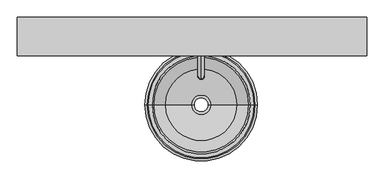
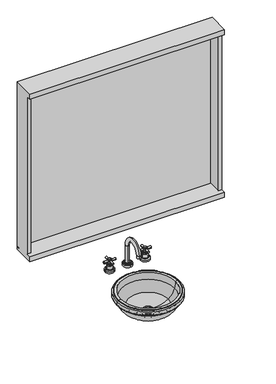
"""IFC4 building model written with IfcOpenShell, lengths in millimetres: furniture geometry, Mueble para Baño 6 : Único."""

from ifc_helpers import new_model, si_unit, point, frame, frame_2d, origin, place, context, project, spatial, polyline, circle_curve, ellipse_curve, trimmed, segment, composite_curve, outline, extrude, faceted_brep, source, transform, mapped, element, save
from ifc_brep_helpers import plane_surface, cylinder_surface, revolved_surface, advanced_brep


def furniture_227ea14e(model_context):
    return source(origin(), model_context, "Body", "SolidModel", [
        extrude(outline(composite_curve([segment(trimmed(circle_curve(frame_2d((0.0, -5.4999999)), 5.5), [point((0.0, -11.0))], [point((0.0, 0.0))], False, "CARTESIAN"), True, "CONTINUOUS"), segment(trimmed(circle_curve(frame_2d((0.0, -5.4999999)), 5.5), [point((0.0, 0.0))], [point((0.0, -11.0))], False, "CARTESIAN"), True, "CONTINUOUS")], self_intersect=False)), frame((-38.3163135, -78.0672767, 1059.2357292), z_axis=(-0.9999993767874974, 0.0011164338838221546, 0.0), x_axis=(0.0, 0.0, -1.0)), (0.0, 0.0, 1.0), 65.6152585),
        extrude(outline(composite_curve([segment(trimmed(circle_curve(frame_2d((1059.2357292, -71.117782)), 5.5), [point((1059.2357292, -65.617782))], [point((1059.2357292, -76.617782))], False, "CARTESIAN"), True, "CONTINUOUS"), segment(trimmed(circle_curve(frame_2d((1059.2357292, -71.117782)), 5.5), [point((1059.2357292, -76.617782))], [point((1059.2357292, -65.617782))], False, "CARTESIAN"), True, "CONTINUOUS")], self_intersect=False)), frame((0.0, -105.3382819, 0.0), z_axis=(0.0, 1.0, 0.0), x_axis=(0.0, 0.0, 1.0)), (0.0, 0.0, 1.0), 65.6152585),
        advanced_brep(
        [(-93.117782, -72.5, 1013.5), (-49.117782, -72.5, 1013.5), (-45.117782, -72.5, 1009.5), (-97.117782, -72.5, 1009.5), (-89.117782, -72.5, 1013.5), (-53.117782, -72.5, 1013.5), (-71.117782, -72.5, 1068.9), (-62.7412258, -72.5, 1068.4308463), (-79.4943381, -72.5, 1068.4308463), (-62.7412258, -72.5, 1067.3782178), (-79.4943381, -72.5, 1067.3782178), (-59.8059449, -72.5, 1067.3782178), (-82.4296191, -72.5, 1067.3782178), (-59.8059449, -72.5, 1051.2186869), (-82.4296191, -72.5, 1051.2186869), (-65.117782, -72.5, 1051.2186869), (-77.117782, -72.5, 1051.2186869), (-65.117782, -72.5, 1043.25), (-77.117782, -72.5, 1043.25), (-60.617782, -72.5, 1042.75), (-81.617782, -72.5, 1042.75), (-60.617782, -72.5, 1040.25), (-81.617782, -72.5, 1040.25), (-59.617782, -72.5, 1040.25), (-82.617782, -72.5, 1040.25), (-56.117782, -72.5, 1036.75), (-86.117782, -72.5, 1036.75), (-56.117782, -72.5, 1016.5), (-86.117782, -72.5, 1016.5), (-45.117782, -72.5, 1000.0), (-97.117782, -72.5, 1000.0), (-71.117782, -72.5, 1000.0)],
        [
            (0, 1, circle_curve(frame((-71.117782, -72.5, 1013.5), z_axis=(0.0, 0.0, -1.0), x_axis=(1.0, 0.0, 0.0)), 22.0)),
            (1, 2, circle_curve(frame((-49.117782, -72.5, 1009.5), z_axis=(0.0, 1.0, 0.0), x_axis=(1.0, 0.0, 0.0)), 4.0)),
            (2, 3, circle_curve(frame((-71.117782, -72.5, 1009.5), z_axis=(0.0, 0.0, 1.0), x_axis=(1.0, 0.0, 0.0)), 26.0)),
            (3, 0, circle_curve(frame((-93.117782, -72.5, 1009.5), z_axis=(0.0, 1.0, 0.0), x_axis=(-1.0, 0.0, 0.0)), 4.0)),
            (1, 0, circle_curve(frame((-71.117782, -72.5, 1013.5), z_axis=(0.0, 0.0, -1.0), x_axis=(1.0, 0.0, 0.0)), 22.0)),
            (3, 2, circle_curve(frame((-71.117782, -72.5, 1009.5), z_axis=(0.0, 0.0, 1.0), x_axis=(1.0, 0.0, 0.0)), 26.0)),
            (4, 5, circle_curve(frame((-71.117782, -72.5, 1013.5), z_axis=(0.0, 0.0, -1.0), x_axis=(1.0, 0.0, 0.0)), 18.0)),
            (5, 1),
            (0, 4),
            (5, 4, circle_curve(frame((-71.117782, -72.5, 1013.5), z_axis=(0.0, 0.0, -1.0), x_axis=(1.0, 0.0, 0.0)), 18.0)),
            (6, 7, circle_curve(frame((-74.1525106, -72.5, 939.7014544), z_axis=(0.0, 1.0, 0.0), x_axis=(-1.0, 0.0, 0.0)), 129.2341819)),
            (7, 8, circle_curve(frame((-71.117782, -72.5, 1068.4308463), z_axis=(0.0, 0.0, 1.0), x_axis=(1.0, 0.0, 0.0)), 8.3765562)),
            (8, 6, circle_curve(frame((-68.0830533, -72.5, 939.7014544), z_axis=(0.0, 1.0, 0.0), x_axis=(1.0, 0.0, 0.0)), 129.2341819)),
            (8, 7, circle_curve(frame((-71.117782, -72.5, 1068.4308463), z_axis=(0.0, 0.0, 1.0), x_axis=(1.0, 0.0, 0.0)), 8.3765562)),
            (7, 9),
            (9, 10, circle_curve(frame((-71.117782, -72.5, 1067.3782178), z_axis=(0.0, 0.0, 1.0), x_axis=(1.0, 0.0, 0.0)), 8.3765562)),
            (10, 8),
            (10, 9, circle_curve(frame((-71.117782, -72.5, 1067.3782178), z_axis=(0.0, 0.0, 1.0), x_axis=(1.0, 0.0, 0.0)), 8.3765562)),
            (9, 11),
            (11, 12, circle_curve(frame((-71.117782, -72.5, 1067.3782178), z_axis=(0.0, 0.0, 1.0), x_axis=(1.0, 0.0, 0.0)), 11.3118371)),
            (12, 10),
            (12, 11, circle_curve(frame((-71.117782, -72.5, 1067.3782178), z_axis=(0.0, 0.0, 1.0), x_axis=(1.0, 0.0, 0.0)), 11.3118371)),
            (11, 13),
            (13, 14, circle_curve(frame((-71.117782, -72.5, 1051.2186869), z_axis=(0.0, 0.0, 1.0), x_axis=(1.0, 0.0, 0.0)), 11.3118371)),
            (14, 12),
            (14, 13, circle_curve(frame((-71.117782, -72.5, 1051.2186869), z_axis=(0.0, 0.0, 1.0), x_axis=(1.0, 0.0, 0.0)), 11.3118371)),
            (13, 15),
            (15, 16, circle_curve(frame((-71.117782, -72.5, 1051.2186869), z_axis=(0.0, 0.0, 1.0), x_axis=(1.0, 0.0, 0.0)), 6.0)),
            (16, 14),
            (16, 15, circle_curve(frame((-71.117782, -72.5, 1051.2186869), z_axis=(0.0, 0.0, 1.0), x_axis=(1.0, 0.0, 0.0)), 6.0)),
            (15, 17),
            (17, 18, circle_curve(frame((-71.117782, -72.5, 1043.25), z_axis=(0.0, 0.0, 1.0), x_axis=(1.0, 0.0, 0.0)), 6.0)),
            (18, 16),
            (18, 17, circle_curve(frame((-71.117782, -72.5, 1043.25), z_axis=(0.0, 0.0, 1.0), x_axis=(1.0, 0.0, 0.0)), 6.0)),
            (17, 19),
            (19, 20, circle_curve(frame((-71.117782, -72.5, 1042.75), z_axis=(0.0, 0.0, 1.0), x_axis=(1.0, 0.0, 0.0)), 10.5)),
            (20, 18),
            (20, 19, circle_curve(frame((-71.117782, -72.5, 1042.75), z_axis=(0.0, 0.0, 1.0), x_axis=(1.0, 0.0, 0.0)), 10.5)),
            (19, 21),
            (21, 22, circle_curve(frame((-71.117782, -72.5, 1040.25), z_axis=(0.0, 0.0, 1.0), x_axis=(1.0, 0.0, 0.0)), 10.5)),
            (22, 20),
            (22, 21, circle_curve(frame((-71.117782, -72.5, 1040.25), z_axis=(0.0, 0.0, 1.0), x_axis=(1.0, 0.0, 0.0)), 10.5)),
            (21, 23),
            (23, 24, circle_curve(frame((-71.117782, -72.5, 1040.25), z_axis=(0.0, 0.0, 1.0), x_axis=(1.0, 0.0, 0.0)), 11.5)),
            (24, 22),
            (24, 23, circle_curve(frame((-71.117782, -72.5, 1040.25), z_axis=(0.0, 0.0, 1.0), x_axis=(1.0, 0.0, 0.0)), 11.5)),
            (23, 25, circle_curve(frame((-59.617782, -72.5, 1036.75), z_axis=(0.0, 1.0, 0.0), x_axis=(-1.0, 0.0, 0.0)), 3.5)),
            (25, 26, circle_curve(frame((-71.117782, -72.5, 1036.75), z_axis=(0.0, 0.0, 1.0), x_axis=(1.0, 0.0, 0.0)), 15.0)),
            (26, 24, circle_curve(frame((-82.617782, -72.5, 1036.75), z_axis=(0.0, 1.0, 0.0), x_axis=(1.0, 0.0, 0.0)), 3.5)),
            (26, 25, circle_curve(frame((-71.117782, -72.5, 1036.75), z_axis=(0.0, 0.0, 1.0), x_axis=(1.0, 0.0, 0.0)), 15.0)),
            (25, 27),
            (27, 28, circle_curve(frame((-71.117782, -72.5, 1016.5), z_axis=(0.0, 0.0, 1.0), x_axis=(1.0, 0.0, 0.0)), 15.0)),
            (28, 26),
            (28, 27, circle_curve(frame((-71.117782, -72.5, 1016.5), z_axis=(0.0, 0.0, 1.0), x_axis=(1.0, 0.0, 0.0)), 15.0)),
            (27, 5, circle_curve(frame((-53.117782, -72.5, 1016.5), z_axis=(0.0, -1.0, 0.0), x_axis=(-1.0, 0.0, 0.0)), 3.0)),
            (4, 28, circle_curve(frame((-89.117782, -72.5, 1016.5), z_axis=(0.0, -1.0, 0.0), x_axis=(1.0, 0.0, 0.0)), 3.0)),
            (2, 29),
            (29, 30, circle_curve(frame((-71.117782, -72.5, 1000.0), z_axis=(0.0, 0.0, 1.0), x_axis=(1.0, 0.0, 0.0)), 26.0)),
            (30, 3),
            (30, 29, circle_curve(frame((-71.117782, -72.5, 1000.0), z_axis=(0.0, 0.0, 1.0), x_axis=(1.0, 0.0, 0.0)), 26.0)),
            (29, 31),
            (31, 30),
        ],
        [
            revolved_surface(trimmed(ellipse_curve(frame((-49.117782, -72.5, 1009.5), z_axis=(0.0, -1.0, 0.0), x_axis=(1.0, 0.0, 0.0)), 4.0, 4.0), [point((-45.117782, -72.5, 1009.5))], [point((-49.117782, -72.5, 1013.5))], True, "CARTESIAN"), (-71.117782, -72.5, 1051.2186869), (0.0, 0.0, 1.0)),
            plane_surface(frame((-71.117782, -72.5, 1013.5), z_axis=(0.0, 0.0, 1.0), x_axis=(1.0, 0.0, 0.0))),
            revolved_surface(trimmed(ellipse_curve(frame((-74.1525106, -72.5, 939.7014544), z_axis=(0.0, -1.0, 0.0), x_axis=(-1.0, 0.0, 0.0)), 129.2341819, 129.2341819), [point((-62.7412258, -72.5, 1068.4308463))], [point((-71.117782, -72.5, 1068.9))], True, "CARTESIAN"), (-71.117782, -72.5, 1051.2186869), (0.0, 0.0, 1.0)),
            cylinder_surface(frame((-71.117782, -72.5, 1051.2186869), z_axis=(0.0, 0.0, 1.0), x_axis=(1.0, 0.0, 0.0)), 8.3765562),
            plane_surface(frame((-71.117782, -72.5, 1067.3782178), z_axis=(0.0, 0.0, 1.0), x_axis=(1.0, 0.0, 0.0))),
            cylinder_surface(frame((-71.117782, -72.5, 1051.2186869), z_axis=(0.0, 0.0, 1.0), x_axis=(1.0, 0.0, 0.0)), 11.3118371),
            plane_surface(frame((-71.117782, -72.5, 1051.2186869), z_axis=(0.0, 0.0, -1.0), x_axis=(1.0, 0.0, 0.0))),
            cylinder_surface(frame((-71.117782, -72.5, 1051.2186869), z_axis=(0.0, 0.0, 1.0), x_axis=(1.0, 0.0, 0.0)), 6.0),
            revolved_surface(polyline([(-60.617782, -72.5, 1042.75), (-65.117782, -72.5, 1043.25)]), (-71.117782, -72.5, 1051.2186869), (0.0, 0.0, 1.0)),
            cylinder_surface(frame((-71.117782, -72.5, 1051.2186869), z_axis=(0.0, 0.0, 1.0), x_axis=(1.0, 0.0, 0.0)), 10.5),
            plane_surface(frame((-71.117782, -72.5, 1040.25), z_axis=(0.0, 0.0, 1.0), x_axis=(1.0, 0.0, 0.0))),
            revolved_surface(trimmed(ellipse_curve(frame((-59.617782, -72.5, 1036.75), z_axis=(0.0, -1.0, 0.0), x_axis=(-1.0, 0.0, 0.0)), 3.5, 3.5), [point((-56.117782, -72.5, 1036.75))], [point((-59.617782, -72.5, 1040.25))], True, "CARTESIAN"), (-71.117782, -72.5, 1051.2186869), (0.0, 0.0, 1.0)),
            cylinder_surface(frame((-71.117782, -72.5, 1051.2186869), z_axis=(0.0, 0.0, 1.0), x_axis=(1.0, 0.0, 0.0)), 15.0),
            revolved_surface(trimmed(ellipse_curve(frame((-53.117782, -72.5, 1016.5), z_axis=(0.0, 1.0, 0.0), x_axis=(-1.0, 0.0, 0.0)), 3.0, 3.0), [point((-53.117782, -72.5, 1013.5))], [point((-56.117782, -72.5, 1016.5))], True, "CARTESIAN"), (-71.117782, -72.5, 1051.2186869), (0.0, 0.0, 1.0)),
            cylinder_surface(frame((-71.117782, -72.5, 1051.2186869), z_axis=(0.0, 0.0, 1.0), x_axis=(1.0, 0.0, 0.0)), 26.0),
            plane_surface(frame((-71.117782, -72.5, 1000.0), z_axis=(0.0, 0.0, -1.0), x_axis=(1.0, 0.0, 0.0))),
        ],
        [
            (0, [[1, 2, 3, 4]]),
            (0, [[5, -4, 6, -2]]),
            (1, [[7, 8, -1, 9]]),
            (1, [[10, -9, -5, -8]]),
            (2, [[11, 12, 13]]),
            (2, [[-13, 14, -11]]),
            (3, [[-12, 15, 16, 17]]),
            (3, [[-14, -17, 18, -15]]),
            (4, [[-16, 19, 20, 21]]),
            (4, [[-18, -21, 22, -19]]),
            (5, [[-20, 23, 24, 25]]),
            (5, [[-22, -25, 26, -23]]),
            (6, [[-24, 27, 28, 29]]),
            (6, [[-26, -29, 30, -27]]),
            (7, [[-28, 31, 32, 33]]),
            (7, [[-30, -33, 34, -31]]),
            (8, [[-32, 35, 36, 37]]),
            (8, [[-34, -37, 38, -35]]),
            (9, [[-36, 39, 40, 41]]),
            (9, [[-38, -41, 42, -39]]),
            (10, [[-40, 43, 44, 45]]),
            (10, [[-42, -45, 46, -43]]),
            (11, [[-44, 47, 48, 49]]),
            (11, [[-46, -49, 50, -47]]),
            (12, [[-48, 51, 52, 53]]),
            (12, [[-50, -53, 54, -51]]),
            (13, [[-52, 55, -7, 56]]),
            (13, [[-54, -56, -10, -55]]),
            (14, [[-3, 57, 58, 59]]),
            (14, [[-6, -59, 60, -57]]),
            (15, [[-58, 61, 62]]),
            (15, [[-60, -62, -61]]),
        ],
    ),
        extrude(outline(composite_curve([segment(trimmed(circle_curve(frame_2d((0.0, -5.4999999)), 5.5), [point((0.0, -11.0))], [point((0.0, 0.0))], False, "CARTESIAN"), True, "CONTINUOUS"), segment(trimmed(circle_curve(frame_2d((0.0, -5.4999999)), 5.5), [point((0.0, 0.0))], [point((0.0, -11.0))], False, "CARTESIAN"), True, "CONTINUOUS")], self_intersect=False)), frame((96.0807496, -78.0672767, 1059.2357292), z_axis=(0.9999993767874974, 0.0011164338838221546, 0.0), x_axis=(0.0, 0.0, 1.0)), (0.0, 0.0, 1.0), 65.6152585),
        extrude(outline(composite_curve([segment(trimmed(circle_curve(frame_2d((1059.2357292, 128.882218)), 5.5), [point((1059.2357292, 123.382218))], [point((1059.2357292, 134.382218))], False, "CARTESIAN"), True, "CONTINUOUS"), segment(trimmed(circle_curve(frame_2d((1059.2357292, 128.882218)), 5.5), [point((1059.2357292, 134.382218))], [point((1059.2357292, 123.382218))], False, "CARTESIAN"), True, "CONTINUOUS")], self_intersect=False)), frame((0.0, -105.3382819, 0.0), z_axis=(0.0, 1.0, 0.0), x_axis=(0.0, 0.0, 1.0)), (0.0, 0.0, 1.0), 65.6152585),
        advanced_brep(
        [(154.882218, -72.5, 1009.5), (102.882218, -72.5, 1009.5), (106.882218, -72.5, 1013.5), (150.882218, -72.5, 1013.5), (110.882218, -72.5, 1013.5), (146.882218, -72.5, 1013.5), (137.2587742, -72.5, 1068.4308463), (120.5056619, -72.5, 1068.4308463), (128.882218, -72.5, 1068.9), (137.2587742, -72.5, 1067.3782178), (120.5056619, -72.5, 1067.3782178), (140.1940551, -72.5, 1067.3782178), (117.5703809, -72.5, 1067.3782178), (140.1940551, -72.5, 1051.2186869), (117.5703809, -72.5, 1051.2186869), (134.882218, -72.5, 1051.2186869), (122.882218, -72.5, 1051.2186869), (134.882218, -72.5, 1043.25), (122.882218, -72.5, 1043.25), (139.382218, -72.5, 1042.75), (118.382218, -72.5, 1042.75), (139.382218, -72.5, 1040.25), (118.382218, -72.5, 1040.25), (140.382218, -72.5, 1040.25), (117.382218, -72.5, 1040.25), (143.882218, -72.5, 1036.75), (113.882218, -72.5, 1036.75), (143.882218, -72.5, 1016.5), (113.882218, -72.5, 1016.5), (154.882218, -72.5, 1000.0), (102.882218, -72.5, 1000.0), (128.882218, -72.5, 1000.0)],
        [
            (0, 1, circle_curve(frame((128.882218, -72.5, 1009.5), z_axis=(0.0, 0.0, 1.0), x_axis=(-1.0, 0.0, 0.0)), 26.0)),
            (1, 2, circle_curve(frame((106.882218, -72.5, 1009.5), z_axis=(0.0, 1.0, 0.0), x_axis=(-1.0, 0.0, 0.0)), 4.0)),
            (2, 3, circle_curve(frame((128.882218, -72.5, 1013.5), z_axis=(0.0, 0.0, -1.0), x_axis=(-1.0, 0.0, 0.0)), 22.0)),
            (3, 0, circle_curve(frame((150.882218, -72.5, 1009.5), z_axis=(0.0, 1.0, 0.0), x_axis=(1.0, 0.0, 0.0)), 4.0)),
            (1, 0, circle_curve(frame((128.882218, -72.5, 1009.5), z_axis=(0.0, 0.0, 1.0), x_axis=(-1.0, 0.0, 0.0)), 26.0)),
            (3, 2, circle_curve(frame((128.882218, -72.5, 1013.5), z_axis=(0.0, 0.0, -1.0), x_axis=(-1.0, 0.0, 0.0)), 22.0)),
            (2, 4),
            (4, 5, circle_curve(frame((128.882218, -72.5, 1013.5), z_axis=(0.0, 0.0, -1.0), x_axis=(-1.0, 0.0, 0.0)), 18.0)),
            (5, 3),
            (5, 4, circle_curve(frame((128.882218, -72.5, 1013.5), z_axis=(0.0, 0.0, -1.0), x_axis=(-1.0, 0.0, 0.0)), 18.0)),
            (6, 7, circle_curve(frame((128.882218, -72.5, 1068.4308463), z_axis=(0.0, 0.0, 1.0), x_axis=(-1.0, 0.0, 0.0)), 8.3765562)),
            (7, 8, circle_curve(frame((131.9169467, -72.5, 939.7014544), z_axis=(0.0, 1.0, 0.0), x_axis=(1.0, 0.0, 0.0)), 129.2341819)),
            (8, 6, circle_curve(frame((125.8474894, -72.5, 939.7014544), z_axis=(0.0, 1.0, 0.0), x_axis=(-1.0, 0.0, 0.0)), 129.2341819)),
            (7, 6, circle_curve(frame((128.882218, -72.5, 1068.4308463), z_axis=(0.0, 0.0, 1.0), x_axis=(-1.0, 0.0, 0.0)), 8.3765562)),
            (9, 10, circle_curve(frame((128.882218, -72.5, 1067.3782178), z_axis=(0.0, 0.0, 1.0), x_axis=(-1.0, 0.0, 0.0)), 8.3765562)),
            (10, 7),
            (6, 9),
            (10, 9, circle_curve(frame((128.882218, -72.5, 1067.3782178), z_axis=(0.0, 0.0, 1.0), x_axis=(-1.0, 0.0, 0.0)), 8.3765562)),
            (11, 12, circle_curve(frame((128.882218, -72.5, 1067.3782178), z_axis=(0.0, 0.0, 1.0), x_axis=(-1.0, 0.0, 0.0)), 11.3118371)),
            (12, 10),
            (9, 11),
            (12, 11, circle_curve(frame((128.882218, -72.5, 1067.3782178), z_axis=(0.0, 0.0, 1.0), x_axis=(-1.0, 0.0, 0.0)), 11.3118371)),
            (13, 14, circle_curve(frame((128.882218, -72.5, 1051.2186869), z_axis=(0.0, 0.0, 1.0), x_axis=(-1.0, 0.0, 0.0)), 11.3118371)),
            (14, 12),
            (11, 13),
            (14, 13, circle_curve(frame((128.882218, -72.5, 1051.2186869), z_axis=(0.0, 0.0, 1.0), x_axis=(-1.0, 0.0, 0.0)), 11.3118371)),
            (15, 16, circle_curve(frame((128.882218, -72.5, 1051.2186869), z_axis=(0.0, 0.0, 1.0), x_axis=(-1.0, 0.0, 0.0)), 6.0)),
            (16, 14),
            (13, 15),
            (16, 15, circle_curve(frame((128.882218, -72.5, 1051.2186869), z_axis=(0.0, 0.0, 1.0), x_axis=(-1.0, 0.0, 0.0)), 6.0)),
            (17, 18, circle_curve(frame((128.882218, -72.5, 1043.25), z_axis=(0.0, 0.0, 1.0), x_axis=(-1.0, 0.0, 0.0)), 6.0)),
            (18, 16),
            (15, 17),
            (18, 17, circle_curve(frame((128.882218, -72.5, 1043.25), z_axis=(0.0, 0.0, 1.0), x_axis=(-1.0, 0.0, 0.0)), 6.0)),
            (19, 20, circle_curve(frame((128.882218, -72.5, 1042.75), z_axis=(0.0, 0.0, 1.0), x_axis=(-1.0, 0.0, 0.0)), 10.5)),
            (20, 18),
            (17, 19),
            (20, 19, circle_curve(frame((128.882218, -72.5, 1042.75), z_axis=(0.0, 0.0, 1.0), x_axis=(-1.0, 0.0, 0.0)), 10.5)),
            (21, 22, circle_curve(frame((128.882218, -72.5, 1040.25), z_axis=(0.0, 0.0, 1.0), x_axis=(-1.0, 0.0, 0.0)), 10.5)),
            (22, 20),
            (19, 21),
            (22, 21, circle_curve(frame((128.882218, -72.5, 1040.25), z_axis=(0.0, 0.0, 1.0), x_axis=(-1.0, 0.0, 0.0)), 10.5)),
            (23, 24, circle_curve(frame((128.882218, -72.5, 1040.25), z_axis=(0.0, 0.0, 1.0), x_axis=(-1.0, 0.0, 0.0)), 11.5)),
            (24, 22),
            (21, 23),
            (24, 23, circle_curve(frame((128.882218, -72.5, 1040.25), z_axis=(0.0, 0.0, 1.0), x_axis=(-1.0, 0.0, 0.0)), 11.5)),
            (25, 26, circle_curve(frame((128.882218, -72.5, 1036.75), z_axis=(0.0, 0.0, 1.0), x_axis=(-1.0, 0.0, 0.0)), 15.0)),
            (26, 24, circle_curve(frame((117.382218, -72.5, 1036.75), z_axis=(0.0, 1.0, 0.0), x_axis=(1.0, 0.0, 0.0)), 3.5)),
            (23, 25, circle_curve(frame((140.382218, -72.5, 1036.75), z_axis=(0.0, 1.0, 0.0), x_axis=(-1.0, 0.0, 0.0)), 3.5)),
            (26, 25, circle_curve(frame((128.882218, -72.5, 1036.75), z_axis=(0.0, 0.0, 1.0), x_axis=(-1.0, 0.0, 0.0)), 15.0)),
            (27, 28, circle_curve(frame((128.882218, -72.5, 1016.5), z_axis=(0.0, 0.0, 1.0), x_axis=(-1.0, 0.0, 0.0)), 15.0)),
            (28, 26),
            (25, 27),
            (28, 27, circle_curve(frame((128.882218, -72.5, 1016.5), z_axis=(0.0, 0.0, 1.0), x_axis=(-1.0, 0.0, 0.0)), 15.0)),
            (4, 28, circle_curve(frame((110.882218, -72.5, 1016.5), z_axis=(0.0, -1.0, 0.0), x_axis=(1.0, 0.0, 0.0)), 3.0)),
            (27, 5, circle_curve(frame((146.882218, -72.5, 1016.5), z_axis=(0.0, -1.0, 0.0), x_axis=(-1.0, 0.0, 0.0)), 3.0)),
            (29, 30, circle_curve(frame((128.882218, -72.5, 1000.0), z_axis=(0.0, 0.0, 1.0), x_axis=(-1.0, 0.0, 0.0)), 26.0)),
            (30, 1),
            (0, 29),
            (30, 29, circle_curve(frame((128.882218, -72.5, 1000.0), z_axis=(0.0, 0.0, 1.0), x_axis=(-1.0, 0.0, 0.0)), 26.0)),
            (31, 30),
            (29, 31),
        ],
        [
            revolved_surface(trimmed(ellipse_curve(frame((106.882218, -72.5, 1009.5), z_axis=(0.0, -1.0, 0.0), x_axis=(-1.0, 0.0, 0.0)), 4.0, 4.0), [point((106.882218, -72.5, 1013.5))], [point((102.882218, -72.5, 1009.5))], True, "CARTESIAN"), (128.882218, -72.5, 1051.2186869), (0.0, 0.0, -1.0)),
            plane_surface(frame((128.882218, -72.5, 1013.5), z_axis=(0.0, 0.0, 1.0), x_axis=(-1.0, 0.0, 0.0))),
            revolved_surface(trimmed(ellipse_curve(frame((131.9169467, -72.5, 939.7014544), z_axis=(0.0, -1.0, 0.0), x_axis=(1.0, 0.0, 0.0)), 129.2341819, 129.2341819), [point((128.882218, -72.5, 1068.9))], [point((120.5056619, -72.5, 1068.4308463))], True, "CARTESIAN"), (128.882218, -72.5, 1051.2186869), (0.0, 0.0, -1.0)),
            cylinder_surface(frame((128.882218, -72.5, 1051.2186869), z_axis=(0.0, 0.0, -1.0), x_axis=(-1.0, 0.0, 0.0)), 8.3765562),
            plane_surface(frame((128.882218, -72.5, 1067.3782178), z_axis=(0.0, 0.0, 1.0), x_axis=(-1.0, 0.0, 0.0))),
            cylinder_surface(frame((128.882218, -72.5, 1051.2186869), z_axis=(0.0, 0.0, -1.0), x_axis=(-1.0, 0.0, 0.0)), 11.3118371),
            plane_surface(frame((128.882218, -72.5, 1051.2186869), z_axis=(0.0, 0.0, -1.0), x_axis=(-1.0, 0.0, 0.0))),
            cylinder_surface(frame((128.882218, -72.5, 1051.2186869), z_axis=(0.0, 0.0, -1.0), x_axis=(-1.0, 0.0, 0.0)), 6.0),
            revolved_surface(polyline([(122.882218, -72.5, 1043.25), (118.382218, -72.5, 1042.75)]), (128.882218, -72.5, 1051.2186869), (0.0, 0.0, -1.0)),
            cylinder_surface(frame((128.882218, -72.5, 1051.2186869), z_axis=(0.0, 0.0, -1.0), x_axis=(-1.0, 0.0, 0.0)), 10.5),
            plane_surface(frame((128.882218, -72.5, 1040.25), z_axis=(0.0, 0.0, 1.0), x_axis=(-1.0, 0.0, 0.0))),
            revolved_surface(trimmed(ellipse_curve(frame((117.382218, -72.5, 1036.75), z_axis=(0.0, -1.0, 0.0), x_axis=(1.0, 0.0, 0.0)), 3.5, 3.5), [point((117.382218, -72.5, 1040.25))], [point((113.882218, -72.5, 1036.75))], True, "CARTESIAN"), (128.882218, -72.5, 1051.2186869), (0.0, 0.0, -1.0)),
            cylinder_surface(frame((128.882218, -72.5, 1051.2186869), z_axis=(0.0, 0.0, -1.0), x_axis=(-1.0, 0.0, 0.0)), 15.0),
            revolved_surface(trimmed(ellipse_curve(frame((110.882218, -72.5, 1016.5), z_axis=(0.0, 1.0, 0.0), x_axis=(1.0, 0.0, 0.0)), 3.0, 3.0), [point((113.882218, -72.5, 1016.5))], [point((110.882218, -72.5, 1013.5))], True, "CARTESIAN"), (128.882218, -72.5, 1051.2186869), (0.0, 0.0, -1.0)),
            cylinder_surface(frame((128.882218, -72.5, 1051.2186869), z_axis=(0.0, 0.0, -1.0), x_axis=(-1.0, 0.0, 0.0)), 26.0),
            plane_surface(frame((128.882218, -72.5, 1000.0), z_axis=(0.0, 0.0, -1.0), x_axis=(-1.0, 0.0, 0.0))),
        ],
        [
            (0, [[1, 2, 3, 4]]),
            (0, [[5, -4, 6, -2]]),
            (1, [[-3, 7, 8, 9]]),
            (1, [[-6, -9, 10, -7]]),
            (2, [[11, 12, 13]]),
            (2, [[14, -13, -12]]),
            (3, [[15, 16, -11, 17]]),
            (3, [[18, -17, -14, -16]]),
            (4, [[19, 20, -15, 21]]),
            (4, [[22, -21, -18, -20]]),
            (5, [[23, 24, -19, 25]]),
            (5, [[26, -25, -22, -24]]),
            (6, [[27, 28, -23, 29]]),
            (6, [[30, -29, -26, -28]]),
            (7, [[31, 32, -27, 33]]),
            (7, [[34, -33, -30, -32]]),
            (8, [[35, 36, -31, 37]]),
            (8, [[38, -37, -34, -36]]),
            (9, [[39, 40, -35, 41]]),
            (9, [[42, -41, -38, -40]]),
            (10, [[43, 44, -39, 45]]),
            (10, [[46, -45, -42, -44]]),
            (11, [[47, 48, -43, 49]]),
            (11, [[50, -49, -46, -48]]),
            (12, [[51, 52, -47, 53]]),
            (12, [[54, -53, -50, -52]]),
            (13, [[-8, 55, -51, 56]]),
            (13, [[-10, -56, -54, -55]]),
            (14, [[57, 58, -1, 59]]),
            (14, [[60, -59, -5, -58]]),
            (15, [[61, -57, 62]]),
            (15, [[-62, -60, -61]]),
        ],
    ),
        advanced_brep(
        [(28.882218, -61.835431, 1119.7202096), (28.882218, -193.4626961, 1125.0209236), (28.882218, -172.5306982, 1123.3322953), (28.882218, -82.835431, 1119.7202096), (28.882218, -82.835431, 1018.5439889), (28.882218, -61.835431, 1018.5439889), (28.882218, -173.7692873, 1107.9789202), (28.882218, -194.7012852, 1109.6675485)],
        [
            (0, 1, circle_curve(frame((28.882218, -127.7557951, 1119.7202096), z_axis=(1.0, 0.0, 0.0), x_axis=(0.0, -0.9967618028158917, 0.0804108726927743)), 65.9203641)),
            (1, 2, circle_curve(frame((28.882218, -182.9966972, 1124.1766094), z_axis=(0.0, 0.08041087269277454, 0.9967618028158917), x_axis=(0.0, -0.9967618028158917, 0.08041087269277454)), 10.5)),
            (2, 3, circle_curve(frame((28.882218, -127.7557951, 1119.7202096), z_axis=(-1.0, 0.0, 0.0), x_axis=(0.0, -0.9967618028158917, 0.0804108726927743)), 44.9203641)),
            (3, 0, circle_curve(frame((28.882218, -72.335431, 1119.7202096), z_axis=(0.0, 0.0, 1.0), x_axis=(0.0, 1.0, 0.0)), 10.5)),
            (2, 1, circle_curve(frame((28.882218, -182.9966972, 1124.1766094), z_axis=(0.0, 0.08041087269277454, 0.9967618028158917), x_axis=(0.0, -0.9967618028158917, 0.08041087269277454)), 10.5)),
            (0, 3, circle_curve(frame((28.882218, -72.335431, 1119.7202096), z_axis=(0.0, 0.0, 1.0), x_axis=(0.0, 1.0, 0.0)), 10.5)),
            (4, 5, circle_curve(frame((28.882218, -72.335431, 1018.5439889), z_axis=(0.0, 0.0, -1.0), x_axis=(0.0, 1.0, 0.0)), 10.5)),
            (5, 4, circle_curve(frame((28.882218, -72.335431, 1018.5439889), z_axis=(0.0, 0.0, -1.0), x_axis=(0.0, 1.0, 0.0)), 10.5)),
            (3, 4),
            (5, 0),
            (6, 7, circle_curve(frame((28.882218, -184.2352863, 1108.8232344), z_axis=(0.0, -0.08041087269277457, -0.9967618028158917), x_axis=(0.0, -0.9967618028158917, 0.08041087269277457)), 10.5)),
            (7, 6, circle_curve(frame((28.882218, -184.2352863, 1108.8232344), z_axis=(0.0, -0.08041087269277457, -0.9967618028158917), x_axis=(0.0, -0.9967618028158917, 0.08041087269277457)), 10.5)),
            (6, 2),
            (1, 7),
        ],
        [
            revolved_surface(trimmed(ellipse_curve(frame((28.882218, -182.9966972, 1124.1766094), z_axis=(0.0, -0.08041087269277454, -0.9967618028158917), x_axis=(0.0, -0.9967618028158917, 0.08041087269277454)), 10.5, 10.5), [point((28.882218, -172.5306982, 1123.3322953))], [point((28.882218, -193.4626961, 1125.0209236))], True, "CARTESIAN"), (28.882218, -127.7557951, 1119.7202096), (-1.0, 0.0, 0.0)),
            revolved_surface(trimmed(ellipse_curve(frame((28.882218, -182.9966972, 1124.1766094), z_axis=(0.0, -0.08041087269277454, -0.9967618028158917), x_axis=(0.0, -0.9967618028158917, 0.08041087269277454)), 10.5, 10.5), [point((28.882218, -193.4626961, 1125.0209236))], [point((28.882218, -172.5306982, 1123.3322953))], True, "CARTESIAN"), (28.882218, -127.7557951, 1119.7202096), (-1.0, 0.0, 0.0)),
            plane_surface(frame((28.882218, -72.335431, 1018.5439889), z_axis=(0.0, 0.0, -1.0), x_axis=(1.0, 0.0, 0.0))),
            cylinder_surface(frame((28.882218, -72.335431, 1119.7202096), z_axis=(0.0, 0.0, 1.0), x_axis=(0.0, 1.0, 0.0)), 10.5),
            plane_surface(frame((28.882218, -184.2352863, 1108.8232344), z_axis=(0.0, -0.08041087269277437, -0.9967618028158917), x_axis=(1.0, 0.0, 0.0))),
            cylinder_surface(frame((28.882218, -184.2352863, 1108.8232344), z_axis=(0.0, -0.08041087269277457, -0.9967618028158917), x_axis=(0.0, -0.9967618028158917, 0.08041087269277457)), 10.5),
        ],
        [
            (0, [[1, 2, 3, 4]]),
            (1, [[-3, 5, -1, 6]]),
            (2, [[7, 8]]),
            (3, [[-4, 9, -8, 10]]),
            (3, [[-6, -10, -7, -9]]),
            (4, [[11, 12]]),
            (5, [[-11, 13, -2, 14]]),
            (5, [[-12, -14, -5, -13]]),
        ],
    ),
        advanced_brep(
        [(28.882218, -98.5135918, 1010.5885767), (28.882218, -46.5136673, 1010.4999848), (28.882218, -46.531556, 1000.0), (28.882218, -98.5314806, 1000.0885919), (28.882218, -95.2319116, 1013.5829901), (28.882218, -49.7851253, 1013.5055627), (28.882218, -89.0084945, 1013.5723873), (28.882218, -56.0085424, 1013.5161655), (28.882218, -88.9999761, 1018.57238), (28.882218, -56.0000239, 1018.5161582), (28.882218, -72.5, 1018.5442691), (28.882218, -72.5315183, 1000.044296)],
        [
            (0, 1, circle_curve(frame((28.882218, -72.5136295, 1010.5442807), z_axis=(0.0, -0.0017036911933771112, -0.9999985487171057), x_axis=(0.0, 0.9999985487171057, -0.0017036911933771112)), 26.0)),
            (1, 2),
            (2, 3, circle_curve(frame((28.882218, -72.5315183, 1000.044296), z_axis=(0.0, 0.0017036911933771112, 0.9999985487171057), x_axis=(0.0, 0.9999985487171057, -0.0017036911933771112)), 26.0)),
            (3, 0),
            (1, 0, circle_curve(frame((28.882218, -72.5136295, 1010.5442807), z_axis=(0.0, -0.0017036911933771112, -0.9999985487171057), x_axis=(0.0, 0.9999985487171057, -0.0017036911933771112)), 26.0)),
            (3, 2, circle_curve(frame((28.882218, -72.5315183, 1000.044296), z_axis=(0.0, 0.0017036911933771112, 0.9999985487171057), x_axis=(0.0, 0.9999985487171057, -0.0017036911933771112)), 26.0)),
            (4, 5, circle_curve(frame((28.882218, -72.5085185, 1013.5442764), z_axis=(0.0, -0.0017036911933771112, -0.9999985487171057), x_axis=(0.0, 0.9999985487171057, -0.0017036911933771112)), 22.7234262)),
            (5, 1, circle_curve(frame((28.882218, -49.5253356, 1010.5051157), z_axis=(-1.0, 0.0, 0.0), x_axis=(0.0, -0.9999985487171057, 0.0017036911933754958)), 3.0116727)),
            (0, 4, circle_curve(frame((28.882218, -95.5019234, 1010.5834457), z_axis=(-1.0, 0.0, 0.0), x_axis=(0.0, 0.9999985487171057, -0.0017036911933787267)), 3.0116727)),
            (5, 4, circle_curve(frame((28.882218, -72.5085185, 1013.5442764), z_axis=(0.0, -0.0017036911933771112, -0.9999985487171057), x_axis=(0.0, 0.9999985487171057, -0.0017036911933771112)), 22.7234262)),
            (6, 7, circle_curve(frame((28.882218, -72.5085185, 1013.5442764), z_axis=(0.0, -0.0017036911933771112, -0.9999985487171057), x_axis=(0.0, 0.9999985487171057, -0.0017036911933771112)), 16.5)),
            (7, 5),
            (4, 6),
            (7, 6, circle_curve(frame((28.882218, -72.5085185, 1013.5442764), z_axis=(0.0, -0.0017036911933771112, -0.9999985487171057), x_axis=(0.0, 0.9999985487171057, -0.0017036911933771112)), 16.5)),
            (8, 9, circle_curve(frame((28.882218, -72.5, 1018.5442691), z_axis=(0.0, -0.0017036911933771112, -0.9999985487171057), x_axis=(0.0, 0.9999985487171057, -0.0017036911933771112)), 16.5)),
            (9, 7),
            (6, 8),
            (9, 8, circle_curve(frame((28.882218, -72.5, 1018.5442691), z_axis=(0.0, -0.0017036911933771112, -0.9999985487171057), x_axis=(0.0, 0.9999985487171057, -0.0017036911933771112)), 16.5)),
            (10, 9),
            (8, 10),
            (2, 11),
            (11, 3),
        ],
        [
            cylinder_surface(frame((28.882218, -72.5, 1018.5442691), z_axis=(0.0, 0.0017036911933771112, 0.9999985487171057), x_axis=(0.0, 0.9999985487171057, -0.0017036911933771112)), 26.0),
            revolved_surface(trimmed(ellipse_curve(frame((28.882218, -49.5253356, 1010.5051157), z_axis=(1.0, 0.0, 0.0), x_axis=(0.0, -0.9999985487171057, 0.0017036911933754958)), 3.0116727, 3.0116727), [point((28.882218, -46.5136673, 1010.4999848))], [point((28.882218, -49.7851253, 1013.5055627))], True, "CARTESIAN"), (28.882218, -72.5, 1018.5442691), (0.0, 0.0017036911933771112, 0.9999985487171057)),
            plane_surface(frame((28.882218, -72.5085185, 1013.5442764), z_axis=(0.0, 0.0017036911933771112, 0.9999985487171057), x_axis=(0.0, 0.9999985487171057, -0.0017036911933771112))),
            cylinder_surface(frame((28.882218, -72.5, 1018.5442691), z_axis=(0.0, 0.0017036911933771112, 0.9999985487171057), x_axis=(0.0, 0.9999985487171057, -0.0017036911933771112)), 16.5),
            plane_surface(frame((28.882218, -72.5, 1018.5442691), z_axis=(0.0, 0.0017036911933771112, 0.9999985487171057), x_axis=(0.0, 0.9999985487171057, -0.0017036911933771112))),
            plane_surface(frame((28.882218, -72.5315183, 1000.044296), z_axis=(0.0, -0.0017036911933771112, -0.9999985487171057), x_axis=(0.0, 0.9999985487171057, -0.0017036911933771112))),
        ],
        [
            (0, [[1, 2, 3, 4]]),
            (0, [[5, -4, 6, -2]]),
            (1, [[7, 8, -1, 9]]),
            (1, [[10, -9, -5, -8]]),
            (2, [[11, 12, -7, 13]]),
            (2, [[14, -13, -10, -12]]),
            (3, [[15, 16, -11, 17]]),
            (3, [[18, -17, -14, -16]]),
            (4, [[19, -15, 20]]),
            (4, [[-20, -18, -19]]),
            (5, [[-3, 21, 22]]),
            (5, [[-6, -22, -21]]),
        ],
    ),
        advanced_brep(
        [(-3.2681502, -275.0, 827.1503651), (61.0325862, -275.0, 827.1503651), (58.882218, -275.0, 825.0009909), (-1.117782, -275.0, 825.0009909), (-4.0565215, -275.0, 838.4246007), (61.8209576, -275.0, 838.4246007), (-91.468812, -275.0, 869.9582987), (149.2332481, -275.0, 869.9582987), (71.1460844, -275.0, 843.1416288), (-13.3816483, -275.0, 843.1416288), (-131.6892863, -275.0, 927.3990889), (189.4537224, -275.0, 927.3990889), (-133.8731756, -275.0, 935.6847396), (191.6376116, -275.0, 935.6847396), (-134.334444, -275.0, 937.6155916), (192.09888, -275.0, 937.6155916), (-134.615096, -275.0, 939.502406), (192.3795321, -275.0, 939.502406), (-137.4876622, -275.0, 942.0888762), (195.2520982, -275.0, 942.0888762), (-146.4524313, -275.0, 942.0888762), (204.2168673, -275.0, 942.0888762), (-148.617782, -275.0, 944.0898671), (206.382218, -275.0, 944.0898671), (-148.617782, -275.0, 964.0), (206.382218, -275.0, 964.0), (-142.2948015, -275.0, 968.9400538), (200.0592375, -275.0, 968.9400538), (-139.0326224, -275.0, 970.0), (196.7970585, -275.0, 970.0), (-125.9987772, -275.0, 970.0), (183.7632132, -275.0, 970.0), (-84.415389, -275.0, 879.6665027), (142.179825, -275.0, 879.6665027), (177.918582, -275.0, 930.7067372), (-120.154146, -275.0, 930.7067372), (-2.117782, -275.0, 855.2316818), (59.882218, -275.0, 855.2316818), (6.382218, -275.0, 825.0009909), (51.382218, -275.0, 825.0009909), (51.382218, -275.0, 855.2316818), (6.382218, -275.0, 855.2316818), (-8.014578, -275.0, 843.1416288), (65.7790141, -275.0, 843.1416288)],
        [
            (0, 1, circle_curve(frame((28.882218, -275.0, 827.1503651), z_axis=(0.0, 0.0, -1.0), x_axis=(1.0, 0.0, 0.0)), 32.1503682)),
            (1, 2, circle_curve(frame((58.882218, -275.0, 827.1513593), z_axis=(0.0, 1.0, 0.0), x_axis=(1.0, 0.0, 0.0)), 2.1503684)),
            (2, 3, circle_curve(frame((28.882218, -275.0, 825.0009909), z_axis=(0.0, 0.0, 1.0), x_axis=(1.0, 0.0, 0.0)), 30.0)),
            (3, 0, circle_curve(frame((-1.117782, -275.0, 827.1513593), z_axis=(0.0, 1.0, 0.0), x_axis=(-1.0, 0.0, 0.0)), 2.1503684)),
            (1, 0, circle_curve(frame((28.882218, -275.0, 827.1503651), z_axis=(0.0, 0.0, -1.0), x_axis=(1.0, 0.0, 0.0)), 32.1503682)),
            (3, 2, circle_curve(frame((28.882218, -275.0, 825.0009909), z_axis=(0.0, 0.0, 1.0), x_axis=(1.0, 0.0, 0.0)), 30.0)),
            (4, 5, circle_curve(frame((28.882218, -275.0, 838.4246007), z_axis=(0.0, 0.0, -1.0), x_axis=(1.0, 0.0, 0.0)), 32.9387395)),
            (5, 1),
            (0, 4),
            (5, 4, circle_curve(frame((28.882218, -275.0, 838.4246007), z_axis=(0.0, 0.0, -1.0), x_axis=(1.0, 0.0, 0.0)), 32.9387395)),
            (6, 7, circle_curve(frame((28.882218, -275.0, 869.9582987), z_axis=(0.0, 0.0, -1.0), x_axis=(1.0, 0.0, 0.0)), 120.35103)),
            (7, 8, circle_curve(frame((66.4599954, -275.0, 983.8859071), z_axis=(0.0, 1.0, 0.0), x_axis=(1.0, 0.0, 0.0)), 140.8222685)),
            (8, 9, circle_curve(frame((28.882218, -275.0, 843.1416288), z_axis=(0.0, 0.0, 1.0), x_axis=(1.0, 0.0, 0.0)), 42.2638663)),
            (9, 6, circle_curve(frame((-8.6955594, -275.0, 983.8859071), z_axis=(0.0, 1.0, 0.0), x_axis=(-1.0, 0.0, 0.0)), 140.8222685)),
            (7, 6, circle_curve(frame((28.882218, -275.0, 869.9582987), z_axis=(0.0, 0.0, -1.0), x_axis=(1.0, 0.0, 0.0)), 120.35103)),
            (9, 8, circle_curve(frame((28.882218, -275.0, 843.1416288), z_axis=(0.0, 0.0, 1.0), x_axis=(1.0, 0.0, 0.0)), 42.2638663)),
            (10, 11, circle_curve(frame((28.882218, -275.0, 927.3990889), z_axis=(0.0, 0.0, -1.0), x_axis=(1.0, 0.0, 0.0)), 160.5715043)),
            (11, 7, circle_curve(frame((85.9334014, -275.0, 957.0830633), z_axis=(0.0, 1.0, 0.0), x_axis=(1.0, 0.0, 0.0)), 107.6921315)),
            (6, 10, circle_curve(frame((-28.1689653, -275.0, 957.0830633), z_axis=(0.0, 1.0, 0.0), x_axis=(-1.0, 0.0, 0.0)), 107.6921315)),
            (11, 10, circle_curve(frame((28.882218, -275.0, 927.3990889), z_axis=(0.0, 0.0, -1.0), x_axis=(1.0, 0.0, 0.0)), 160.5715043)),
            (12, 13, circle_curve(frame((28.882218, -275.0, 935.6847396), z_axis=(0.0, 0.0, -1.0), x_axis=(1.0, 0.0, 0.0)), 162.7553936)),
            (13, 11, circle_curve(frame((-1.7648451, -275.0, 982.2301308), z_axis=(0.0, 1.0, 0.0), x_axis=(1.0, 0.0, 0.0)), 198.9245679)),
            (10, 12, circle_curve(frame((59.5292812, -275.0, 982.2301308), z_axis=(0.0, 1.0, 0.0), x_axis=(-1.0, 0.0, 0.0)), 198.9245679)),
            (13, 12, circle_curve(frame((28.882218, -275.0, 935.6847396), z_axis=(0.0, 0.0, -1.0), x_axis=(1.0, 0.0, 0.0)), 162.7553936)),
            (14, 15, circle_curve(frame((28.882218, -275.0, 937.6155916), z_axis=(0.0, 0.0, -1.0), x_axis=(1.0, 0.0, 0.0)), 163.216662)),
            (15, 13, circle_curve(frame((88.7437298, -275.0, 961.2859661), z_axis=(0.0, 1.0, 0.0), x_axis=(1.0, 0.0, 0.0)), 106.0310035)),
            (12, 14, circle_curve(frame((-30.9792937, -275.0, 961.2859661), z_axis=(0.0, 1.0, 0.0), x_axis=(-1.0, 0.0, 0.0)), 106.0310035)),
            (15, 14, circle_curve(frame((28.882218, -275.0, 937.6155916), z_axis=(0.0, 0.0, -1.0), x_axis=(1.0, 0.0, 0.0)), 163.216662)),
            (16, 17, circle_curve(frame((28.882218, -275.0, 939.502406), z_axis=(0.0, 0.0, -1.0), x_axis=(1.0, 0.0, 0.0)), 163.4973141)),
            (17, 15),
            (14, 16),
            (17, 16, circle_curve(frame((28.882218, -275.0, 939.502406), z_axis=(0.0, 0.0, -1.0), x_axis=(1.0, 0.0, 0.0)), 163.4973141)),
            (18, 19, circle_curve(frame((28.882218, -275.0, 942.0888762), z_axis=(0.0, 0.0, -1.0), x_axis=(1.0, 0.0, 0.0)), 166.3698802)),
            (19, 17, circle_curve(frame((195.3824254, -275.0, 939.0557441), z_axis=(0.0, -1.0, 0.0), x_axis=(1.0, 0.0, 0.0)), 3.0359307)),
            (16, 18, circle_curve(frame((-137.6179894, -275.0, 939.0557441), z_axis=(0.0, -1.0, 0.0), x_axis=(-1.0, 0.0, 0.0)), 3.0359307)),
            (19, 18, circle_curve(frame((28.882218, -275.0, 942.0888762), z_axis=(0.0, 0.0, -1.0), x_axis=(1.0, 0.0, 0.0)), 166.3698802)),
            (20, 21, circle_curve(frame((28.882218, -275.0, 942.0888762), z_axis=(0.0, 0.0, -1.0), x_axis=(1.0, 0.0, 0.0)), 175.3346493)),
            (21, 19),
            (18, 20),
            (21, 20, circle_curve(frame((28.882218, -275.0, 942.0888762), z_axis=(0.0, 0.0, -1.0), x_axis=(1.0, 0.0, 0.0)), 175.3346493)),
            (22, 23, circle_curve(frame((28.882218, -275.0, 944.0898671), z_axis=(0.0, 0.0, -1.0), x_axis=(1.0, 0.0, 0.0)), 177.5)),
            (23, 21, circle_curve(frame((204.2168673, -275.0, 944.260977), z_axis=(0.0, 1.0, 0.0), x_axis=(1.0, 0.0, 0.0)), 2.1721009)),
            (20, 22, circle_curve(frame((-146.4524313, -275.0, 944.260977), z_axis=(0.0, 1.0, 0.0), x_axis=(-1.0, 0.0, 0.0)), 2.1721009)),
            (23, 22, circle_curve(frame((28.882218, -275.0, 944.0898671), z_axis=(0.0, 0.0, -1.0), x_axis=(1.0, 0.0, 0.0)), 177.5)),
            (24, 25, circle_curve(frame((28.882218, -275.0, 964.0), z_axis=(0.0, 0.0, -1.0), x_axis=(1.0, 0.0, 0.0)), 177.5)),
            (25, 23),
            (22, 24),
            (25, 24, circle_curve(frame((28.882218, -275.0, 964.0), z_axis=(0.0, 0.0, -1.0), x_axis=(1.0, 0.0, 0.0)), 177.5)),
            (26, 27, circle_curve(frame((28.882218, -275.0, 968.9400538), z_axis=(0.0, 0.0, -1.0), x_axis=(1.0, 0.0, 0.0)), 171.1770195)),
            (27, 25),
            (24, 26),
            (27, 26, circle_curve(frame((28.882218, -275.0, 968.9400538), z_axis=(0.0, 0.0, -1.0), x_axis=(1.0, 0.0, 0.0)), 171.1770195)),
            (28, 29, circle_curve(frame((28.882218, -275.0, 970.0), z_axis=(0.0, 0.0, -1.0), x_axis=(1.0, 0.0, 0.0)), 167.9148404)),
            (29, 27, circle_curve(frame((196.9720588, -275.0, 964.9886452), z_axis=(0.0, 1.0, 0.0), x_axis=(1.0, 0.0, 0.0)), 5.0144094)),
            (26, 28, circle_curve(frame((-139.2076228, -275.0, 964.9886452), z_axis=(0.0, 1.0, 0.0), x_axis=(-1.0, 0.0, 0.0)), 5.0144094)),
            (29, 28, circle_curve(frame((28.882218, -275.0, 970.0), z_axis=(0.0, 0.0, -1.0), x_axis=(1.0, 0.0, 0.0)), 167.9148404)),
            (30, 31, circle_curve(frame((28.882218, -275.0, 970.0), z_axis=(0.0, 0.0, -1.0), x_axis=(1.0, 0.0, 0.0)), 154.8809952)),
            (31, 29),
            (28, 30),
            (31, 30, circle_curve(frame((28.882218, -275.0, 970.0), z_axis=(0.0, 0.0, -1.0), x_axis=(1.0, 0.0, 0.0)), 154.8809952)),
            (32, 33, circle_curve(frame((28.882218, -275.0, 879.6665027), z_axis=(0.0, 0.0, -1.0), x_axis=(1.0, 0.0, 0.0)), 113.297607)),
            (33, 34, circle_curve(frame((85.9334014, -275.0, 957.0830633), z_axis=(0.0, -1.0, 0.0), x_axis=(1.0, 0.0, 0.0)), 95.6921315)),
            (34, 35, circle_curve(frame((28.882218, -275.0, 930.7067372), z_axis=(0.0, 0.0, 1.0), x_axis=(1.0, 0.0, 0.0)), 149.036364)),
            (35, 32, circle_curve(frame((-28.1689653, -275.0, 957.0830633), z_axis=(0.0, -1.0, 0.0), x_axis=(-1.0, 0.0, 0.0)), 95.6921315)),
            (33, 32, circle_curve(frame((28.882218, -275.0, 879.6665027), z_axis=(0.0, 0.0, -1.0), x_axis=(1.0, 0.0, 0.0)), 113.297607)),
            (35, 34, circle_curve(frame((28.882218, -275.0, 930.7067372), z_axis=(0.0, 0.0, 1.0), x_axis=(1.0, 0.0, 0.0)), 149.036364)),
            (36, 37, circle_curve(frame((28.882218, -275.0, 855.2316818), z_axis=(0.0, 0.0, -1.0), x_axis=(1.0, 0.0, 0.0)), 31.0)),
            (37, 33, circle_curve(frame((66.4599954, -275.0, 983.8859071), z_axis=(0.0, -1.0, 0.0), x_axis=(1.0, 0.0, 0.0)), 128.8222685)),
            (32, 36, circle_curve(frame((-8.6955594, -275.0, 983.8859071), z_axis=(0.0, -1.0, 0.0), x_axis=(-1.0, 0.0, 0.0)), 128.8222685)),
            (37, 36, circle_curve(frame((28.882218, -275.0, 855.2316818), z_axis=(0.0, 0.0, -1.0), x_axis=(1.0, 0.0, 0.0)), 31.0)),
            (38, 39, circle_curve(frame((28.882218, -275.0, 825.0009909), z_axis=(0.0, 0.0, -1.0), x_axis=(1.0, 0.0, 0.0)), 22.5)),
            (39, 40),
            (40, 41, circle_curve(frame((28.882218, -275.0, 855.2316818), z_axis=(0.0, 0.0, 1.0), x_axis=(1.0, 0.0, 0.0)), 22.5)),
            (41, 38),
            (39, 38, circle_curve(frame((28.882218, -275.0, 825.0009909), z_axis=(0.0, 0.0, -1.0), x_axis=(1.0, 0.0, 0.0)), 22.5)),
            (41, 40, circle_curve(frame((28.882218, -275.0, 855.2316818), z_axis=(0.0, 0.0, 1.0), x_axis=(1.0, 0.0, 0.0)), 22.5)),
            (2, 39),
            (38, 3),
            (34, 31, circle_curve(frame((32.4034775, -275.0, 972.432522), z_axis=(0.0, -1.0, 0.0), x_axis=(1.0, 0.0, 0.0)), 151.3792811)),
            (30, 35, circle_curve(frame((25.3609585, -275.0, 972.432522), z_axis=(0.0, -1.0, 0.0), x_axis=(-1.0, 0.0, 0.0)), 151.3792811)),
            (40, 37),
            (36, 41),
            (42, 43, circle_curve(frame((28.882218, -275.0, 843.1416288), z_axis=(0.0, 0.0, -1.0), x_axis=(1.0, 0.0, 0.0)), 36.896796)),
            (43, 5, circle_curve(frame((67.0462019, -275.0, 838.0592161), z_axis=(0.0, -1.0, 0.0), x_axis=(1.0, 0.0, 0.0)), 5.2380039)),
            (4, 42, circle_curve(frame((-9.2817659, -275.0, 838.0592161), z_axis=(0.0, -1.0, 0.0), x_axis=(-1.0, 0.0, 0.0)), 5.2380039)),
            (43, 42, circle_curve(frame((28.882218, -275.0, 843.1416288), z_axis=(0.0, 0.0, -1.0), x_axis=(1.0, 0.0, 0.0)), 36.896796)),
            (8, 43),
            (42, 9),
        ],
        [
            revolved_surface(trimmed(ellipse_curve(frame((58.882218, -275.0, 827.1513593), z_axis=(0.0, -1.0, 0.0), x_axis=(1.0, 0.0, 0.0)), 2.1503684, 2.1503684), [point((58.882218, -275.0, 825.0009909))], [point((61.0325862, -275.0, 827.1503651))], True, "CARTESIAN"), (28.882218, -275.0, 825.0), (0.0, 0.0, 1.0)),
            revolved_surface(polyline([(61.0325862, -275.0, 827.1503651), (61.8209576, -275.0, 838.4246007)]), (28.882218, -275.0, 825.0), (0.0, 0.0, 1.0)),
            revolved_surface(trimmed(ellipse_curve(frame((66.4599954, -275.0, 983.8859071), z_axis=(0.0, -1.0, 0.0), x_axis=(1.0, 0.0, 0.0)), 140.8222685, 140.8222685), [point((71.1460844, -275.0, 843.1416288))], [point((149.2332481, -275.0, 869.9582987))], True, "CARTESIAN"), (28.882218, -275.0, 825.0), (0.0, 0.0, 1.0)),
            revolved_surface(trimmed(ellipse_curve(frame((85.9334014, -275.0, 957.0830633), z_axis=(0.0, -1.0, 0.0), x_axis=(1.0, 0.0, 0.0)), 107.6921315, 107.6921315), [point((149.2332481, -275.0, 869.9582987))], [point((189.4537224, -275.0, 927.3990889))], True, "CARTESIAN"), (28.882218, -275.0, 825.0), (0.0, 0.0, 1.0)),
            revolved_surface(trimmed(ellipse_curve(frame((-1.7648451, -275.0, 982.2301308), z_axis=(0.0, -1.0, 0.0), x_axis=(1.0, 0.0, 0.0)), 198.9245679, 198.9245679), [point((189.4537224, -275.0, 927.3990889))], [point((191.6376116, -275.0, 935.6847396))], True, "CARTESIAN"), (28.882218, -275.0, 825.0), (0.0, 0.0, 1.0)),
            revolved_surface(trimmed(ellipse_curve(frame((88.7437298, -275.0, 961.2859661), z_axis=(0.0, -1.0, 0.0), x_axis=(1.0, 0.0, 0.0)), 106.0310035, 106.0310035), [point((191.6376116, -275.0, 935.6847396))], [point((192.09888, -275.0, 937.6155916))], True, "CARTESIAN"), (28.882218, -275.0, 825.0), (0.0, 0.0, 1.0)),
            revolved_surface(polyline([(192.09888, -275.0, 937.6155916), (192.3795321, -275.0, 939.502406)]), (28.882218, -275.0, 825.0), (0.0, 0.0, 1.0)),
            revolved_surface(trimmed(ellipse_curve(frame((195.3824254, -275.0, 939.0557441), z_axis=(0.0, 1.0, 0.0), x_axis=(1.0, 0.0, 0.0)), 3.0359307, 3.0359307), [point((192.3795321, -275.0, 939.502406))], [point((195.2520982, -275.0, 942.0888762))], True, "CARTESIAN"), (28.882218, -275.0, 825.0), (0.0, 0.0, 1.0)),
            plane_surface(frame((28.882218, -275.0, 942.0888762), z_axis=(0.0, 0.0, -1.0), x_axis=(1.0, 0.0, 0.0))),
            revolved_surface(trimmed(ellipse_curve(frame((204.2168673, -275.0, 944.260977), z_axis=(0.0, -1.0, 0.0), x_axis=(1.0, 0.0, 0.0)), 2.1721009, 2.1721009), [point((204.2168673, -275.0, 942.0888762))], [point((206.382218, -275.0, 944.0898671))], True, "CARTESIAN"), (28.882218, -275.0, 825.0), (0.0, 0.0, 1.0)),
            cylinder_surface(frame((28.882218, -275.0, 825.0), z_axis=(0.0, 0.0, 1.0), x_axis=(1.0, 0.0, 0.0)), 177.5),
            revolved_surface(polyline([(206.382218, -275.0, 964.0), (200.0592375, -275.0, 968.9400538)]), (28.882218, -275.0, 825.0), (0.0, 0.0, 1.0)),
            revolved_surface(trimmed(ellipse_curve(frame((196.9720588, -275.0, 964.9886452), z_axis=(0.0, -1.0, 0.0), x_axis=(1.0, 0.0, 0.0)), 5.0144094, 5.0144094), [point((200.0592375, -275.0, 968.9400538))], [point((196.7970585, -275.0, 970.0))], True, "CARTESIAN"), (28.882218, -275.0, 825.0), (0.0, 0.0, 1.0)),
            plane_surface(frame((28.882218, -275.0, 970.0), z_axis=(0.0, 0.0, 1.0), x_axis=(1.0, 0.0, 0.0))),
            revolved_surface(trimmed(ellipse_curve(frame((85.9334014, -275.0, 957.0830633), z_axis=(0.0, 1.0, 0.0), x_axis=(1.0, 0.0, 0.0)), 95.6921315, 95.6921315), [point((177.918582, -275.0, 930.7067372))], [point((142.179825, -275.0, 879.6665027))], True, "CARTESIAN"), (28.882218, -275.0, 825.0), (0.0, 0.0, 1.0)),
            revolved_surface(trimmed(ellipse_curve(frame((66.4599954, -275.0, 983.8859071), z_axis=(0.0, 1.0, 0.0), x_axis=(1.0, 0.0, 0.0)), 128.8222685, 128.8222685), [point((142.179825, -275.0, 879.6665027))], [point((59.882218, -275.0, 855.2316818))], True, "CARTESIAN"), (28.882218, -275.0, 825.0), (0.0, 0.0, 1.0)),
            revolved_surface(polyline([(51.382218, -275.0, 855.2316818), (51.382218, -275.0, 825.0009909)]), (28.882218, -275.0, 825.0), (0.0, 0.0, 1.0)),
            plane_surface(frame((28.882218, -275.0, 825.0009909), z_axis=(0.0, 0.0, -1.0), x_axis=(1.0, 0.0, 0.0))),
            revolved_surface(trimmed(ellipse_curve(frame((32.4034775, -275.0, 972.432522), z_axis=(0.0, 1.0, 0.0), x_axis=(1.0, 0.0, 0.0)), 151.3792811, 151.3792811), [point((183.7632132, -275.0, 970.0))], [point((177.918582, -275.0, 930.7067372))], True, "CARTESIAN"), (28.882218, -275.0, 825.0), (0.0, 0.0, 1.0)),
            plane_surface(frame((28.882218, -275.0, 855.2316818), z_axis=(0.0, 0.0, 1.0), x_axis=(1.0, 0.0, 0.0))),
            revolved_surface(trimmed(ellipse_curve(frame((67.0462019, -275.0, 838.0592161), z_axis=(0.0, 1.0, 0.0), x_axis=(1.0, 0.0, 0.0)), 5.2380039, 5.2380039), [point((61.8209576, -275.0, 838.4246007))], [point((65.7790141, -275.0, 843.1416288))], True, "CARTESIAN"), (28.882218, -275.0, 825.0), (0.0, 0.0, 1.0)),
            plane_surface(frame((28.882218, -275.0, 843.1416288), z_axis=(0.0, 0.0, -1.0), x_axis=(1.0, 0.0, 0.0))),
        ],
        [
            (0, [[1, 2, 3, 4]]),
            (0, [[5, -4, 6, -2]]),
            (1, [[7, 8, -1, 9]]),
            (1, [[10, -9, -5, -8]]),
            (2, [[11, 12, 13, 14]]),
            (2, [[15, -14, 16, -12]]),
            (3, [[17, 18, -11, 19]]),
            (3, [[20, -19, -15, -18]]),
            (4, [[21, 22, -17, 23]]),
            (4, [[24, -23, -20, -22]]),
            (5, [[25, 26, -21, 27]]),
            (5, [[28, -27, -24, -26]]),
            (6, [[29, 30, -25, 31]]),
            (6, [[32, -31, -28, -30]]),
            (7, [[33, 34, -29, 35]]),
            (7, [[36, -35, -32, -34]]),
            (8, [[37, 38, -33, 39]]),
            (8, [[40, -39, -36, -38]]),
            (9, [[41, 42, -37, 43]]),
            (9, [[44, -43, -40, -42]]),
            (10, [[45, 46, -41, 47]]),
            (10, [[48, -47, -44, -46]]),
            (11, [[49, 50, -45, 51]]),
            (11, [[52, -51, -48, -50]]),
            (12, [[53, 54, -49, 55]]),
            (12, [[56, -55, -52, -54]]),
            (13, [[57, 58, -53, 59]]),
            (13, [[60, -59, -56, -58]]),
            (14, [[61, 62, 63, 64]]),
            (14, [[65, -64, 66, -62]]),
            (15, [[67, 68, -61, 69]]),
            (15, [[70, -69, -65, -68]]),
            (16, [[71, 72, 73, 74]]),
            (16, [[75, -74, 76, -72]]),
            (17, [[-3, 77, -71, 78]]),
            (17, [[-6, -78, -75, -77]]),
            (18, [[-63, 79, -57, 80]]),
            (18, [[-66, -80, -60, -79]]),
            (19, [[-73, 81, -67, 82]]),
            (19, [[-76, -82, -70, -81]]),
            (20, [[83, 84, -7, 85]]),
            (20, [[86, -85, -10, -84]]),
            (21, [[-13, 87, -83, 88]]),
            (21, [[-16, -88, -86, -87]]),
        ],
    ),
        extrude(outline(polyline([(-550.0, -15.0), (-550.0, -5.0), (550.0, -5.0), (550.0, -15.0), (-550.0, -15.0)])), frame((0.0, 0.0, 1267.5), z_axis=(0.0, 0.0, 1.0), x_axis=(1.0, 0.0, 0.0)), (0.0, 0.0, 1.0), 2.5),
        faceted_brep([(550.0, -120.0, 2220.0), (550.0, -120.0, 2250.0), (-550.0, -120.0, 2250.0), (-550.0, -120.0, 2220.0), (550.0, 0.0, 2250.0), (-550.0, 0.0, 2250.0), (-550.0, -95.0, 2220.0), (-530.0, -95.0, 2220.0), (-530.0, -20.0, 2220.0), (530.0, -20.0, 2220.0), (530.0, -95.0, 2220.0), (550.0, -95.0, 2220.0), (-530.0, -95.0, 1280.0), (-550.0, -95.0, 1280.0), (550.0, -95.0, 1280.0), (530.0, -95.0, 1280.0), (-530.0, -20.0, 1280.0), (530.0, -20.0, 1280.0), (550.0, -120.0, 1250.0), (550.0, -120.0, 1280.0), (-550.0, -120.0, 1280.0), (-550.0, -120.0, 1250.0), (550.0, 0.0, 1250.0), (520.0, 0.0, 1250.0), (520.0, 0.0, 1270.0), (-520.0, 0.0, 1270.0), (-520.0, 0.0, 1250.0), (-550.0, 0.0, 1250.0), (-520.0, -20.0, 1250.0), (520.0, -20.0, 1250.0), (520.0, -20.0, 1270.0), (-520.0, -20.0, 1270.0)], [[[0, 1, 2, 3]], [[2, 1, 4, 5]], [[0, 3, 6, 7, 8, 9, 10, 11]], [[12, 7, 6, 13]], [[14, 11, 10, 15]], [[7, 12, 16, 8]], [[15, 10, 9, 17]], [[16, 17, 9, 8]], [[18, 19, 20, 21]], [[5, 4, 22, 23, 24, 25, 26, 27]], [[19, 18, 22, 4, 1, 0, 11, 14]], [[20, 19, 14, 15, 17, 16, 12, 13]], [[21, 20, 13, 6, 3, 2, 5, 27]], [[18, 21, 27, 26, 28, 29, 23, 22]], [[29, 30, 24, 23]], [[25, 31, 28, 26]], [[24, 30, 31, 25]], [[30, 29, 28, 31]]]),
    ])


if __name__ == "__main__":
    model = new_model("IFC4")
    model_context = context("Model", 3, world=origin())
    ifc_project = project(units=[si_unit("LENGTHUNIT", "METRE", prefix="MILLI")], contexts=[model_context])
    site = spatial("IfcSite", under=ifc_project)
    building = spatial("IfcBuilding", under=site)
    placement = place(None, origin())
    furniture_shape = furniture_227ea14e(model_context)
    element("IfcFurniture", 1, ObjectType="Mueble para Baño 6 : Único", at=placement, inside=building, context=model_context, shape_type="MappedRepresentation", body=[
        mapped(furniture_shape, transform((0.0, 0.0, 0.0), x_axis=(1.0, 0.0, 0.0), y_axis=(0.0, 1.0, 0.0), z_axis=(0.0, 0.0, 1.0))),
    ])
    save(model, "model.ifc")
